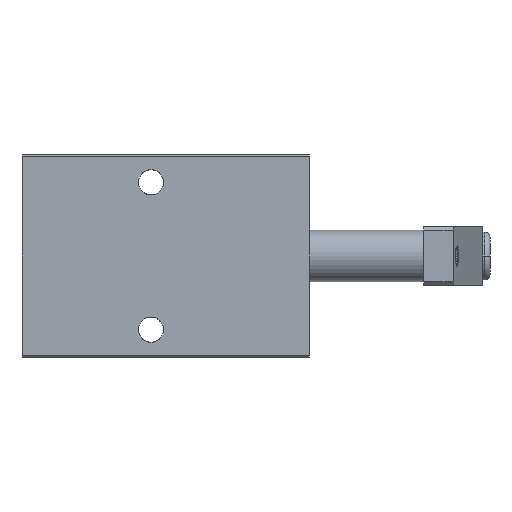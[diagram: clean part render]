
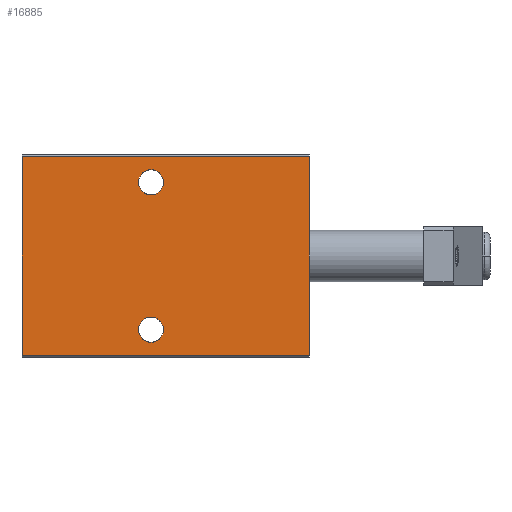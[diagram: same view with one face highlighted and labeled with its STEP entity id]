
A CAD part, front view. The second image highlights one B-rep face of the part: STEP entity #16885.
In plain terms, the highlighted planar face has unit normal (0, -1, 0).
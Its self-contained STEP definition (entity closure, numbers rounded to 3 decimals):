
#42=DIRECTION('',(0.,0.,-1.));
#43=VECTOR('',#42,54.);
#44=CARTESIAN_POINT('',(0.,-17.5,27.));
#45=LINE('',#44,#43);
#436=DIRECTION('',(0.,0.,-1.));
#437=VECTOR('',#436,54.);
#438=CARTESIAN_POINT('',(78.,-17.5,27.));
#439=LINE('',#438,#437);
#4165=DIRECTION('',(-1.,0.,0.));
#4166=VECTOR('',#4165,78.);
#4167=CARTESIAN_POINT('',(78.,-17.5,27.));
#4168=LINE('',#4167,#4166);
#4169=DIRECTION('',(-1.,0.,0.));
#4170=VECTOR('',#4169,78.);
#4171=CARTESIAN_POINT('',(78.,-17.5,-27.));
#4172=LINE('',#4171,#4170);
#4173=CARTESIAN_POINT('',(35.,-17.5,-20.));
#4174=DIRECTION('',(0.,1.,0.));
#4175=DIRECTION('',(0.,0.,1.));
#4176=AXIS2_PLACEMENT_3D('',#4173,#4174,#4175);
#4178=CARTESIAN_POINT('',(35.,-17.5,-20.));
#4179=DIRECTION('',(0.,1.,0.));
#4180=DIRECTION('',(0.,0.,-1.));
#4181=AXIS2_PLACEMENT_3D('',#4178,#4179,#4180);
#4183=CARTESIAN_POINT('',(35.,-17.5,20.));
#4184=DIRECTION('',(0.,1.,0.));
#4185=DIRECTION('',(0.,0.,1.));
#4186=AXIS2_PLACEMENT_3D('',#4183,#4184,#4185);
#4188=CARTESIAN_POINT('',(35.,-17.5,20.));
#4189=DIRECTION('',(0.,1.,0.));
#4190=DIRECTION('',(0.,0.,-1.));
#4191=AXIS2_PLACEMENT_3D('',#4188,#4189,#4190);
#11457=CARTESIAN_POINT('',(0.,-17.5,27.));
#11459=VERTEX_POINT('',#11457);
#11463=CARTESIAN_POINT('',(78.,-17.5,27.));
#11464=VERTEX_POINT('',#11463);
#11466=CARTESIAN_POINT('',(0.,-17.5,-27.));
#11468=VERTEX_POINT('',#11466);
#11469=CARTESIAN_POINT('',(78.,-17.5,-27.));
#11470=VERTEX_POINT('',#11469);
#11621=CARTESIAN_POINT('',(35.,-17.5,-16.6));
#11622=CARTESIAN_POINT('',(35.,-17.5,-23.4));
#11623=VERTEX_POINT('',#11621);
#11624=VERTEX_POINT('',#11622);
#11625=CARTESIAN_POINT('',(35.,-17.5,23.4));
#11626=CARTESIAN_POINT('',(35.,-17.5,16.6));
#11627=VERTEX_POINT('',#11625);
#11628=VERTEX_POINT('',#11626);
#16861=CARTESIAN_POINT('',(0.,-17.5,27.5));
#16862=DIRECTION('',(0.,-1.,0.));
#16863=DIRECTION('',(0.,0.,-1.));
#16864=AXIS2_PLACEMENT_3D('',#16861,#16862,#16863);
#16865=PLANE('',#16864);
#16867=ORIENTED_EDGE('',*,*,#16866,.F.);
#16868=ORIENTED_EDGE('',*,*,#12433,.T.);
#16869=ORIENTED_EDGE('',*,*,#16854,.T.);
#16870=ORIENTED_EDGE('',*,*,#12179,.F.);
#16871=EDGE_LOOP('',(#16867,#16868,#16869,#16870));
#16872=FACE_OUTER_BOUND('',#16871,.F.);
#16874=ORIENTED_EDGE('',*,*,#16873,.F.);
#16876=ORIENTED_EDGE('',*,*,#16875,.F.);
#16877=EDGE_LOOP('',(#16874,#16876));
#16878=FACE_BOUND('',#16877,.F.);
#16880=ORIENTED_EDGE('',*,*,#16879,.F.);
#16882=ORIENTED_EDGE('',*,*,#16881,.F.);
#16883=EDGE_LOOP('',(#16880,#16882));
#16884=FACE_BOUND('',#16883,.F.);
#16885=ADVANCED_FACE('',(#16872,#16878,#16884),#16865,.T.);
#4177=CIRCLE('',#4176,3.4);
#4182=CIRCLE('',#4181,3.4);
#4187=CIRCLE('',#4186,3.4);
#4192=CIRCLE('',#4191,3.4);
#12179=EDGE_CURVE('',#11459,#11468,#45,.T.);
#12433=EDGE_CURVE('',#11464,#11470,#439,.T.);
#16854=EDGE_CURVE('',#11470,#11468,#4172,.T.);
#16866=EDGE_CURVE('',#11464,#11459,#4168,.T.);
#16873=EDGE_CURVE('',#11623,#11624,#4177,.T.);
#16875=EDGE_CURVE('',#11624,#11623,#4182,.T.);
#16879=EDGE_CURVE('',#11627,#11628,#4187,.T.);
#16881=EDGE_CURVE('',#11628,#11627,#4192,.T.);
